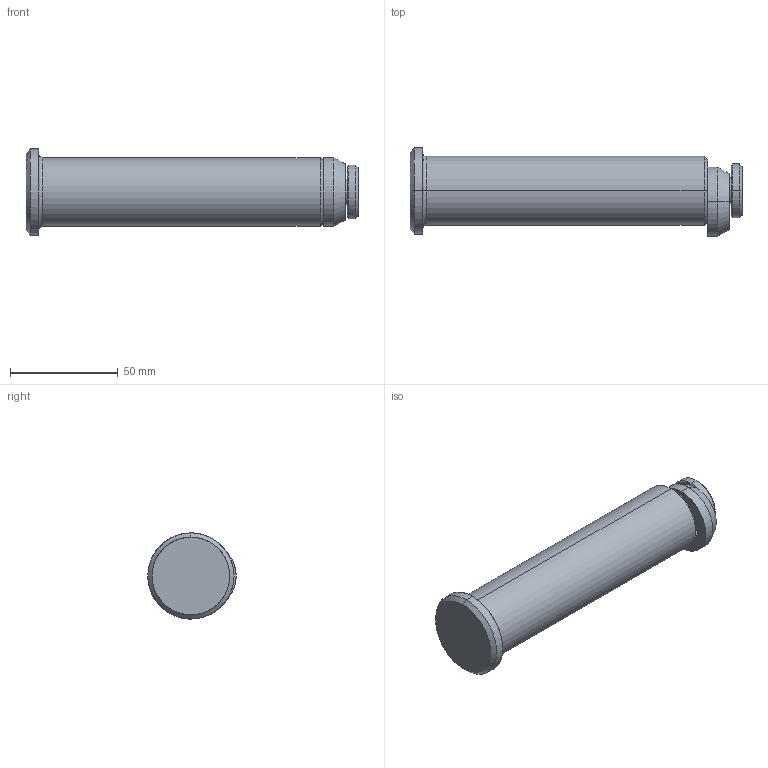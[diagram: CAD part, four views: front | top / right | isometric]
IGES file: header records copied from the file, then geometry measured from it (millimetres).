
Start section: START RECORD GO HERE.
Global section: file name: 395C-032-132.igs; native system: DASSAULT SYSTEMES CATIA V5 R20 - www.3ds.com; preprocessor: CATIA Version 5 Release 20 ; author: Utente; organization: NB04-ASUS; date: 20200409.150001; units: millimetre
Bounding box: 154 x 41 x 40 mm (x, y, z)
Surface area: 20409.8 mm2 (no closed solid volume)
Topology: 0 solids, 0 shells, 34 faces, 132 edges, 132 vertices
Faces by surface type: revolution 26, extrusion 8
